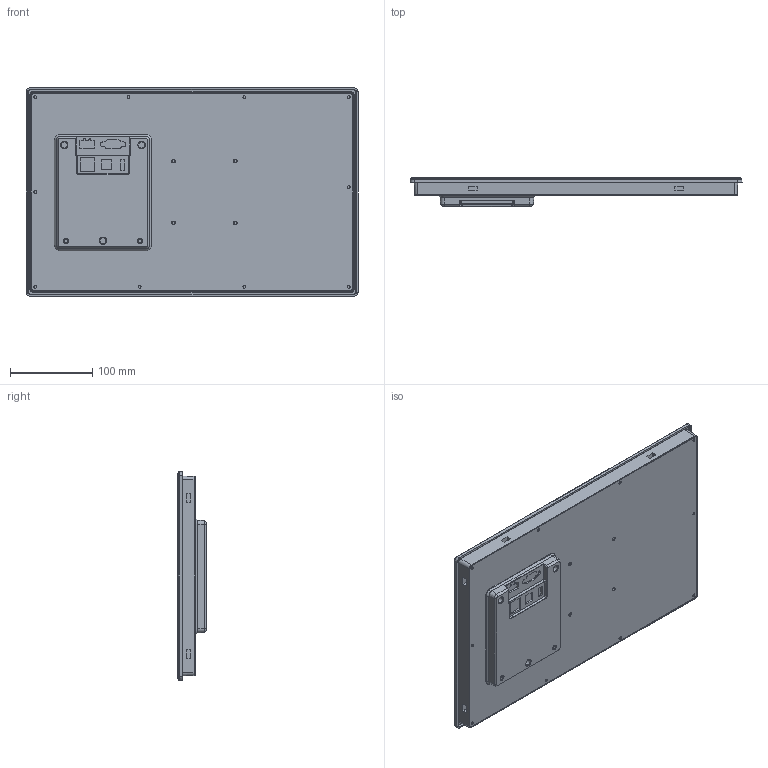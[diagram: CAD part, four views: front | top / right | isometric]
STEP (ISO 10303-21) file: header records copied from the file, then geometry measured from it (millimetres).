
FILE_DESCRIPTION((''),'2;1');
FILE_NAME('M0052-20181204_1_2_1_1_1_1_1','2022-06-11T14:15:30',('admin'),(''),'CREO PARAMETRIC BY PTC INC, 2018050','CREO PARAMETRIC BY PTC INC, 2018050','');
FILE_SCHEMA(('CONFIG_CONTROL_DESIGN'));
Length unit declared in the file: millimetre
Products named in the file (1): M0052-20181204_1_2_1_1_1_1_1
Bounding box: 403 x 35.2 x 253 mm (x, y, z)
Volume: 2221049.1 mm3; surface area: 245251.5 mm2
Topology: 1 solids, 2 shells, 385 faces, 926 edges, 582 vertices
Faces by surface type: plane 169, cylinder 134, cone 42, torus 24, bspline 16
Entity records: 11766 total; most frequent: CARTESIAN_POINT 2819, ORIENTED_EDGE 1852, DIRECTION 1826, EDGE_CURVE 926, AXIS2_PLACEMENT_3D 647, VERTEX_POINT 582, VECTOR 532, LINE 532
